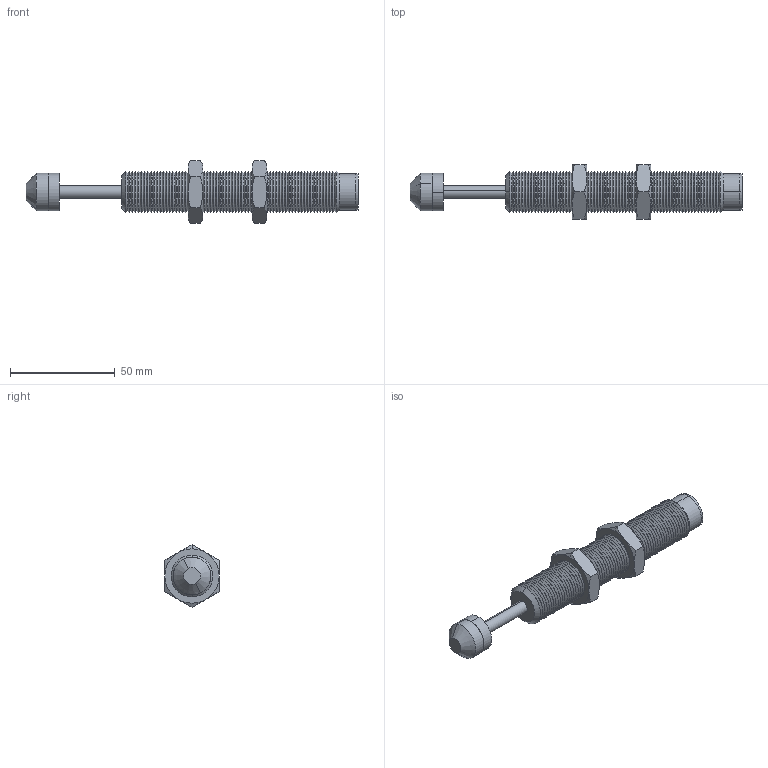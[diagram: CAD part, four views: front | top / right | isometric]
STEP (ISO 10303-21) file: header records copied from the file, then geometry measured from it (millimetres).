
FILE_DESCRIPTION (( 'STEP AP203' ), '1' );
FILE_NAME ('68002.W0206.step', '2017-02-27T15:53:30', ( 'User' ), ( '' ), 'SwSTEP 2.0', 'SolidWorks 2009', '' );
FILE_SCHEMA (( 'CONFIG_CONTROL_DESIGN' ));
Length unit declared in the file: millimetre
Products named in the file (8): Part1_68002.W0206; Part2_68002.W0206; Part6_68002.W0206; Part7_68002.W0206; 68002.W0206; Part5_68002.W0206; Part3_68002.W0206; Part4_68002.W0206
Assembly tree (8 placements, depth 2):
  68002.W0206
    Part2_68002.W0206
    Part4_68002.W0206
    Part6_68002.W0206  x2
    Part3_68002.W0206
    Part1_68002.W0206
    Part5_68002.W0206
    Part7_68002.W0206
Bounding box: 158.8 x 26 x 30.02 mm (x, y, z)
Volume: 38128.7 mm3; surface area: 20579.3 mm2
Topology: 8 solids, 8 shells, 375 faces, 756 edges, 399 vertices
Faces by surface type: cone 304, plane 43, cylinder 26, torus 2
Entity records: 9836 total; most frequent: DIRECTION 1748, CARTESIAN_POINT 1577, ORIENTED_EDGE 1404, AXIS2_PLACEMENT_3D 708, EDGE_CURVE 702, VERTEX_POINT 369, EDGE_LOOP 361, FACE_OUTER_BOUND 351
